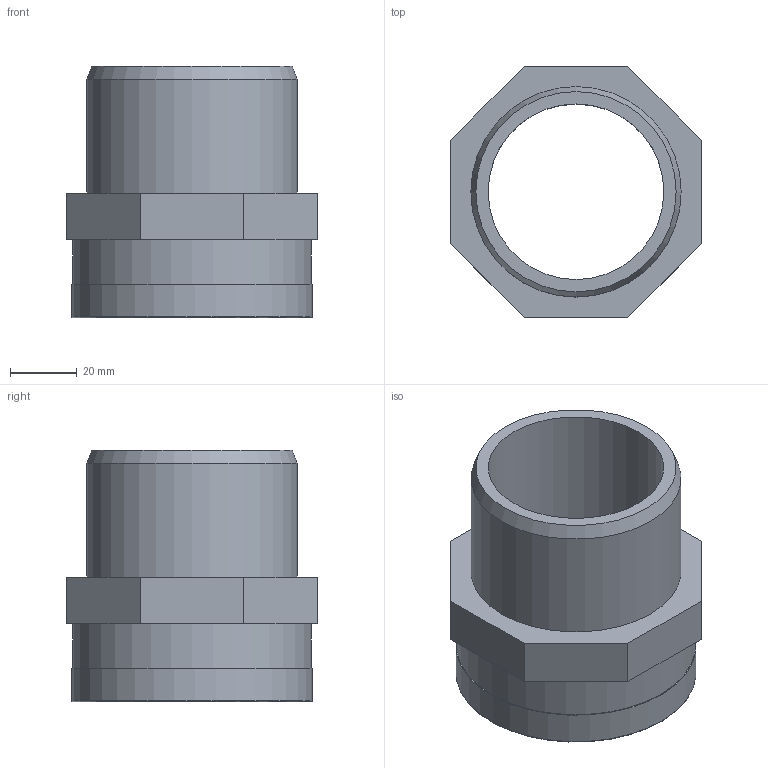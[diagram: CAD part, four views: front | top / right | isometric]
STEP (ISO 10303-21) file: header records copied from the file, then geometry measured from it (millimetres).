
FILE_DESCRIPTION(/* description */ (''),/* implementation_level */ '2;1');
FILE_NAME(/* name */ 'C:\Users\POLYPIPE\Desktop\DATASET INVENTOR\LIBRERIA EFFAST\RACCORDI 3DxWEB\RGR\3D_RGRAFR\3D_RGRAFR063G.stp',/* time_stamp */ '2018-01-19T17:31:51+01:00',/* author */ ('POLYPIPE'),/* organization */ (''),/* preprocessor_version */ 'ST-DEVELOPER v16.1',/* originating_system */ 'Autodesk Inventor 2016',/* authorisation */ '');
FILE_SCHEMA (('CONFIG_CONTROL_DESIGN'));
Length unit declared in the file: centimetre
Products named in the file (1): 3D_RGRAFR063G
Bounding box: 75 x 75 x 75.4 mm (x, y, z)
Volume: 99576.9 mm3; surface area: 37440 mm2
Topology: 1 solids, 1 shells, 29 faces, 64 edges, 42 vertices
Faces by surface type: plane 16, cylinder 6, bspline 5, cone 1, torus 1
Full cylindrical faces by diameter (mm): 52.6 x1, 56.656 x1, 63 x2, 71.5 x1, 72 x1
Entity records: 5266 total; most frequent: CARTESIAN_POINT 4616, DIRECTION 109, ORIENTED_EDGE 108, EDGE_CURVE 54, EDGE_LOOP 44, AXIS2_PLACEMENT_3D 41, VERTEX_POINT 40, STYLED_ITEM 30
